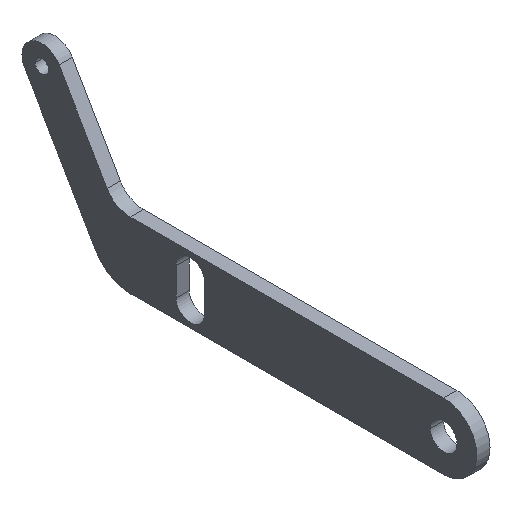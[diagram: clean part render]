
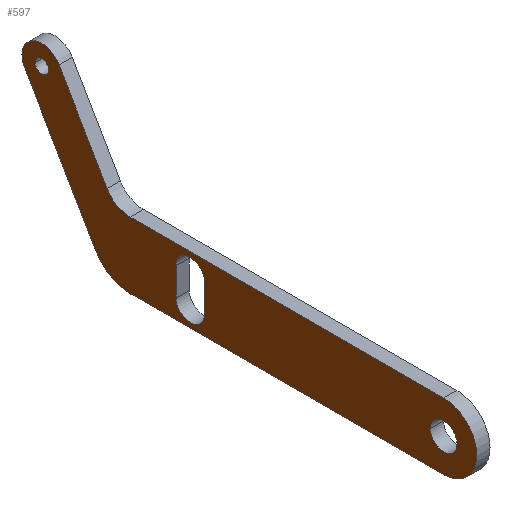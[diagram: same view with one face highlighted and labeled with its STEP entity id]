
A CAD part, isometric view. The second image highlights one B-rep face of the part: STEP entity #597.
In plain terms, the highlighted planar face has unit normal (-1, 0, 0).
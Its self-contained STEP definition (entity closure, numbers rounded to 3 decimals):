
#57=CARTESIAN_POINT('Axis2P3D Location',(70.4,-32.5,353.906)) ;
#61=CARTESIAN_POINT('Vertex',(70.4,-32.5,378.906)) ;
#63=CARTESIAN_POINT('Vertex',(70.4,-32.5,328.906)) ;
#97=CARTESIAN_POINT('Line Origine',(70.4,85.95,328.906)) ;
#101=CARTESIAN_POINT('Vertex',(70.4,204.401,328.906)) ;
#128=CARTESIAN_POINT('Axis2P3D Location',(70.4,204.401,358.906)) ;
#132=CARTESIAN_POINT('Vertex',(70.4,230.381,343.906)) ;
#159=CARTESIAN_POINT('Line Origine',(70.4,257.169,390.304)) ;
#163=CARTESIAN_POINT('Vertex',(70.4,283.957,436.702)) ;
#190=CARTESIAN_POINT('Axis2P3D Location',(70.4,270.966,444.202)) ;
#194=CARTESIAN_POINT('Vertex',(70.4,257.976,451.702)) ;
#221=CARTESIAN_POINT('Line Origine',(70.4,239.849,420.304)) ;
#225=CARTESIAN_POINT('Vertex',(70.4,221.721,388.906)) ;
#252=CARTESIAN_POINT('Axis2P3D Location',(70.4,204.401,398.906)) ;
#256=CARTESIAN_POINT('Vertex',(70.4,204.401,378.906)) ;
#283=CARTESIAN_POINT('Line Origine',(70.4,85.95,378.906)) ;
#311=CARTESIAN_POINT('Vertex',(70.4,-42.6,353.906)) ;
#325=CARTESIAN_POINT('Vertex',(70.4,-22.4,353.906)) ;
#328=CARTESIAN_POINT('Axis2P3D Location',(70.4,-32.5,353.906)) ;
#345=CARTESIAN_POINT('Axis2P3D Location',(70.4,-32.5,353.906)) ;
#368=CARTESIAN_POINT('Vertex',(70.4,265.966,444.202)) ;
#382=CARTESIAN_POINT('Vertex',(70.4,275.966,444.202)) ;
#385=CARTESIAN_POINT('Axis2P3D Location',(70.4,270.966,444.202)) ;
#402=CARTESIAN_POINT('Axis2P3D Location',(70.4,270.966,444.202)) ;
#425=CARTESIAN_POINT('Vertex',(70.4,148.133,364.528)) ;
#439=CARTESIAN_POINT('Vertex',(70.4,148.133,343.285)) ;
#442=CARTESIAN_POINT('Line Origine',(70.4,148.133,353.906)) ;
#465=CARTESIAN_POINT('Vertex',(70.4,169.618,364.528)) ;
#473=CARTESIAN_POINT('Axis2P3D Location',(70.4,158.875,364.528)) ;
#496=CARTESIAN_POINT('Vertex',(70.4,169.618,343.285)) ;
#504=CARTESIAN_POINT('Line Origine',(70.4,169.618,353.906)) ;
#526=CARTESIAN_POINT('Axis2P3D Location',(70.4,158.875,343.285)) ;
#568=CARTESIAN_POINT('Axis2P3D Location',(70.4,0.,0.)) ;
#58=DIRECTION('Axis2P3D Direction',(1.,0.,-0.)) ;
#98=DIRECTION('Vector Direction',(0.,-1.,0.)) ;
#129=DIRECTION('Axis2P3D Direction',(1.,0.,-0.)) ;
#160=DIRECTION('Vector Direction',(0.,-0.5,-0.866)) ;
#191=DIRECTION('Axis2P3D Direction',(1.,0.,-0.)) ;
#222=DIRECTION('Vector Direction',(0.,0.5,0.866)) ;
#253=DIRECTION('Axis2P3D Direction',(1.,0.,-0.)) ;
#284=DIRECTION('Vector Direction',(0.,1.,0.)) ;
#329=DIRECTION('Axis2P3D Direction',(1.,0.,-0.)) ;
#346=DIRECTION('Axis2P3D Direction',(1.,0.,-0.)) ;
#386=DIRECTION('Axis2P3D Direction',(1.,0.,-0.)) ;
#403=DIRECTION('Axis2P3D Direction',(1.,0.,-0.)) ;
#443=DIRECTION('Vector Direction',(0.,0.,1.)) ;
#474=DIRECTION('Axis2P3D Direction',(1.,0.,-0.)) ;
#505=DIRECTION('Vector Direction',(0.,0.,-1.)) ;
#527=DIRECTION('Axis2P3D Direction',(1.,0.,-0.)) ;
#569=DIRECTION('Axis2P3D Direction',(1.,0.,0.)) ;
#570=DIRECTION('Axis2P3D XDirection',(0.,1.,0.)) ;
#59=AXIS2_PLACEMENT_3D('Circle Axis2P3D',#57,#58,$) ;
#130=AXIS2_PLACEMENT_3D('Circle Axis2P3D',#128,#129,$) ;
#192=AXIS2_PLACEMENT_3D('Circle Axis2P3D',#190,#191,$) ;
#254=AXIS2_PLACEMENT_3D('Circle Axis2P3D',#252,#253,$) ;
#330=AXIS2_PLACEMENT_3D('Circle Axis2P3D',#328,#329,$) ;
#347=AXIS2_PLACEMENT_3D('Circle Axis2P3D',#345,#346,$) ;
#387=AXIS2_PLACEMENT_3D('Circle Axis2P3D',#385,#386,$) ;
#404=AXIS2_PLACEMENT_3D('Circle Axis2P3D',#402,#403,$) ;
#475=AXIS2_PLACEMENT_3D('Circle Axis2P3D',#473,#474,$) ;
#528=AXIS2_PLACEMENT_3D('Circle Axis2P3D',#526,#527,$) ;
#571=AXIS2_PLACEMENT_3D('Plane Axis2P3D',#568,#569,#570) ;
#574=ORIENTED_EDGE('',*,*,#287,.F.) ;
#575=ORIENTED_EDGE('',*,*,#258,.F.) ;
#576=ORIENTED_EDGE('',*,*,#227,.F.) ;
#577=ORIENTED_EDGE('',*,*,#196,.F.) ;
#578=ORIENTED_EDGE('',*,*,#165,.F.) ;
#579=ORIENTED_EDGE('',*,*,#134,.F.) ;
#580=ORIENTED_EDGE('',*,*,#103,.F.) ;
#581=ORIENTED_EDGE('',*,*,#65,.F.) ;
#584=ORIENTED_EDGE('',*,*,#349,.T.) ;
#585=ORIENTED_EDGE('',*,*,#332,.T.) ;
#588=ORIENTED_EDGE('',*,*,#406,.T.) ;
#589=ORIENTED_EDGE('',*,*,#389,.T.) ;
#592=ORIENTED_EDGE('',*,*,#530,.T.) ;
#593=ORIENTED_EDGE('',*,*,#508,.T.) ;
#594=ORIENTED_EDGE('',*,*,#477,.T.) ;
#595=ORIENTED_EDGE('',*,*,#446,.T.) ;
#586=FACE_BOUND('',#583,.T.) ;
#590=FACE_BOUND('',#587,.T.) ;
#596=FACE_BOUND('',#591,.T.) ;
#99=VECTOR('Line Direction',#98,1.) ;
#161=VECTOR('Line Direction',#160,1.) ;
#223=VECTOR('Line Direction',#222,1.) ;
#285=VECTOR('Line Direction',#284,1.) ;
#444=VECTOR('Line Direction',#443,1.) ;
#506=VECTOR('Line Direction',#505,1.) ;
#597=ADVANCED_FACE('PartBody',(#582,#586,#590,#596),#572,.F.) ;
#60=CIRCLE('generated circle',#59,25.) ;
#131=CIRCLE('generated circle',#130,30.) ;
#193=CIRCLE('generated circle',#192,15.) ;
#255=CIRCLE('generated circle',#254,20.) ;
#331=CIRCLE('generated circle',#330,10.1) ;
#348=CIRCLE('generated circle',#347,10.1) ;
#388=CIRCLE('generated circle',#387,5.) ;
#405=CIRCLE('generated circle',#404,5.) ;
#476=CIRCLE('generated circle',#475,10.742) ;
#529=CIRCLE('generated circle',#528,10.742) ;
#65=EDGE_CURVE('',#62,#64,#60,.T.) ;
#103=EDGE_CURVE('',#64,#102,#100,.F.) ;
#134=EDGE_CURVE('',#102,#133,#131,.T.) ;
#165=EDGE_CURVE('',#133,#164,#162,.F.) ;
#196=EDGE_CURVE('',#164,#195,#193,.T.) ;
#227=EDGE_CURVE('',#195,#226,#224,.F.) ;
#258=EDGE_CURVE('',#226,#257,#255,.F.) ;
#287=EDGE_CURVE('',#257,#62,#286,.F.) ;
#332=EDGE_CURVE('',#312,#326,#331,.T.) ;
#349=EDGE_CURVE('',#326,#312,#348,.T.) ;
#389=EDGE_CURVE('',#369,#383,#388,.T.) ;
#406=EDGE_CURVE('',#383,#369,#405,.T.) ;
#446=EDGE_CURVE('',#426,#440,#445,.F.) ;
#477=EDGE_CURVE('',#466,#426,#476,.T.) ;
#508=EDGE_CURVE('',#497,#466,#507,.F.) ;
#530=EDGE_CURVE('',#440,#497,#529,.T.) ;
#573=EDGE_LOOP('',(#574,#575,#576,#577,#578,#579,#580,#581)) ;
#583=EDGE_LOOP('',(#584,#585)) ;
#587=EDGE_LOOP('',(#588,#589)) ;
#591=EDGE_LOOP('',(#592,#593,#594,#595)) ;
#582=FACE_OUTER_BOUND('',#573,.T.) ;
#100=LINE('Line',#97,#99) ;
#162=LINE('Line',#159,#161) ;
#224=LINE('Line',#221,#223) ;
#286=LINE('Line',#283,#285) ;
#445=LINE('Line',#442,#444) ;
#507=LINE('Line',#504,#506) ;
#572=PLANE('Plane',#571) ;
#62=VERTEX_POINT('',#61) ;
#64=VERTEX_POINT('',#63) ;
#102=VERTEX_POINT('',#101) ;
#133=VERTEX_POINT('',#132) ;
#164=VERTEX_POINT('',#163) ;
#195=VERTEX_POINT('',#194) ;
#226=VERTEX_POINT('',#225) ;
#257=VERTEX_POINT('',#256) ;
#312=VERTEX_POINT('',#311) ;
#326=VERTEX_POINT('',#325) ;
#369=VERTEX_POINT('',#368) ;
#383=VERTEX_POINT('',#382) ;
#426=VERTEX_POINT('',#425) ;
#440=VERTEX_POINT('',#439) ;
#466=VERTEX_POINT('',#465) ;
#497=VERTEX_POINT('',#496) ;
